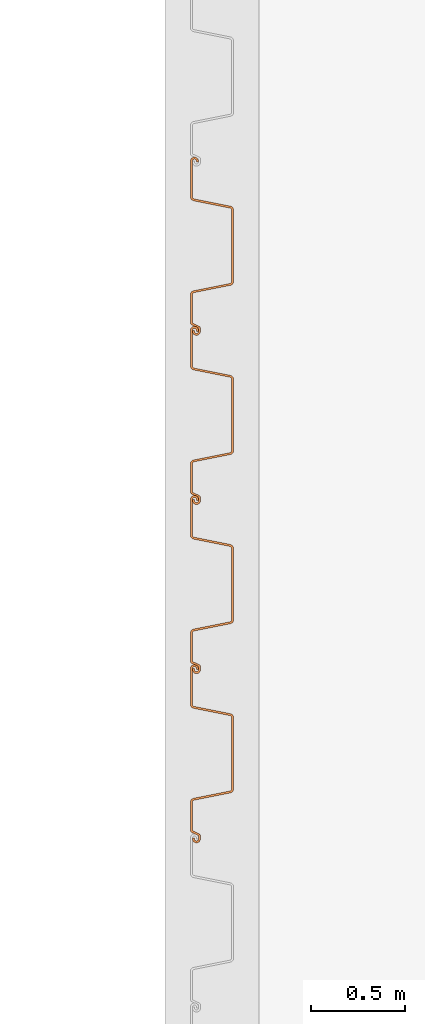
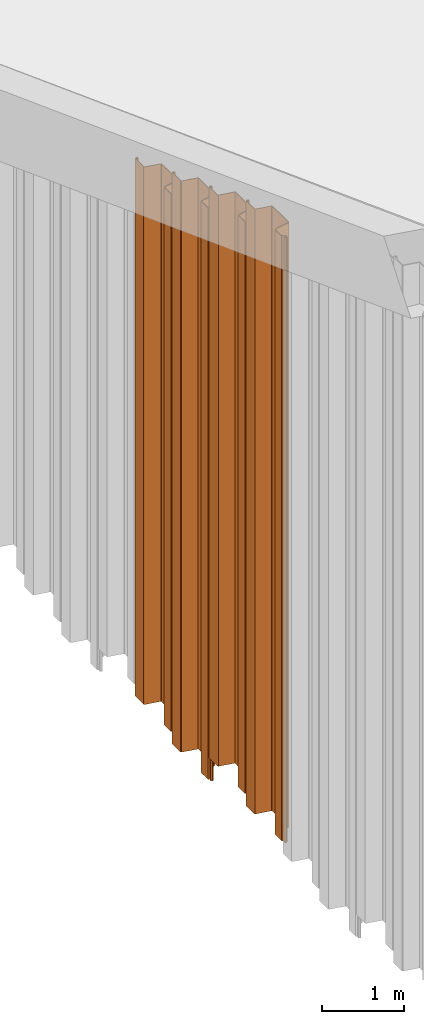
# One storey, part 11 of 15: 4 proxies.
"""IFC2X3 building model written with IfcOpenShell, lengths in millimetres."""

from ifc_helpers import new_model, entity, si_unit, converted_unit, derived_unit, direction, frame, frame_2d, origin, place, context, subcontext, project, spatial, polyline, circle_curve, parameter, trimmed, segment, composite_curve, outline, extrude, source, transform, mapped, material, type_object, type_shapes, element, save


model = new_model("IFC2X3")

# Units and contexts
model_context = context("Model", 3, precision=0.01, world=origin(), true_north=direction((6.12303176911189e-17, 1.0)))
body_context = subcontext(model_context, "Body", "Model", "MODEL_VIEW")
ifc_project = project(units=[si_unit("LENGTHUNIT", "METRE", prefix="MILLI"), si_unit("AREAUNIT", "SQUARE_METRE"), si_unit("VOLUMEUNIT", "CUBIC_METRE"), converted_unit("PLANEANGLEUNIT", "DEGREE", entity("IfcRatioMeasure", 0.0174532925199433), si_unit("PLANEANGLEUNIT", "RADIAN"), dimensions=[0, 0, 0, 0, 0, 0, 0]), si_unit("MASSUNIT", "GRAM", prefix="KILO"), derived_unit("MASSDENSITYUNIT", [(si_unit("MASSUNIT", "GRAM", prefix="KILO"), 1), (si_unit("LENGTHUNIT", "METRE"), -3)]), derived_unit("MOMENTOFINERTIAUNIT", [(si_unit("LENGTHUNIT", "METRE"), 4)]), si_unit("TIMEUNIT", "SECOND"), si_unit("FREQUENCYUNIT", "HERTZ"), si_unit("THERMODYNAMICTEMPERATUREUNIT", "DEGREE_CELSIUS"), derived_unit("THERMALTRANSMITTANCEUNIT", [(si_unit("MASSUNIT", "GRAM", prefix="KILO"), 1), (si_unit("THERMODYNAMICTEMPERATUREUNIT", "KELVIN"), -1), (si_unit("TIMEUNIT", "SECOND"), -3)]), derived_unit("VOLUMETRICFLOWRATEUNIT", [(si_unit("LENGTHUNIT", "METRE"), 3), (si_unit("TIMEUNIT", "SECOND"), -1)]), si_unit("ELECTRICCURRENTUNIT", "AMPERE"), si_unit("ELECTRICVOLTAGEUNIT", "VOLT"), si_unit("POWERUNIT", "WATT"), si_unit("FORCEUNIT", "NEWTON", prefix="KILO"), si_unit("ILLUMINANCEUNIT", "LUX"), si_unit("LUMINOUSFLUXUNIT", "LUMEN"), si_unit("LUMINOUSINTENSITYUNIT", "CANDELA"), derived_unit("USERDEFINED", [(si_unit("MASSUNIT", "GRAM", prefix="KILO"), -1), (si_unit("LENGTHUNIT", "METRE"), -2), (si_unit("TIMEUNIT", "SECOND"), 3), (si_unit("LUMINOUSFLUXUNIT", "LUMEN"), 1)]), derived_unit("LINEARVELOCITYUNIT", [(si_unit("LENGTHUNIT", "METRE"), 1), (si_unit("TIMEUNIT", "SECOND"), -1)]), si_unit("PRESSUREUNIT", "PASCAL"), derived_unit("USERDEFINED", [(si_unit("LENGTHUNIT", "METRE"), -2), (si_unit("MASSUNIT", "GRAM", prefix="KILO"), 1), (si_unit("TIMEUNIT", "SECOND"), -2)]), derived_unit("LINEARFORCEUNIT", [(si_unit("MASSUNIT", "GRAM", prefix="KILO"), 1), (si_unit("LENGTHUNIT", "METRE"), 1), (si_unit("TIMEUNIT", "SECOND"), -2), (si_unit("LENGTHUNIT", "METRE"), -1)]), derived_unit("PLANARFORCEUNIT", [(si_unit("MASSUNIT", "GRAM", prefix="KILO"), 1), (si_unit("LENGTHUNIT", "METRE"), 1), (si_unit("TIMEUNIT", "SECOND"), -2), (si_unit("LENGTHUNIT", "METRE"), -2)])], contexts=[model_context])

# Site, building, storey
site_placement = place(None, origin())
site = spatial("IfcSite", under=ifc_project, at=site_placement, Name="Default", CompositionType="ELEMENT")
building_placement = place(site_placement, origin())
building = spatial("IfcBuilding", under=site, at=building_placement, CompositionType="ELEMENT")
storey_placement = place(building_placement, frame((0.0, 0.0, 9500.0)))
storey = spatial("IfcBuildingStorey", under=building, at=storey_placement, Name="AP+9.500", CompositionType="ELEMENT", Elevation=9500.0)

# Proxies
ifc_material = material(Name="<Unnamed>")
building_element_proxy_type_1 = type_object("IfcBuildingElementProxyType", Name="鋼矢板10H型:鋼矢板10H型", PredefinedType="NOTDEFINED", material=ifc_material)
shared_shape_1 = source(origin(), body_context, "Body", "SweptSolid", [
    extrude(outline(composite_curve([segment(trimmed(circle_curve(frame_2d((85.3662976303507, 306.644432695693), x_axis=(0.422618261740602, 0.906307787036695)), 13.885714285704), [parameter(24.9999999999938)], [parameter(90.0000000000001)], True, "PARAMETER"), True, "CONTINUOUS"), segment(polyline([(72.7815666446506, 312.512789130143), (9.8129512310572, 177.476157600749)]), True, "CONTINUOUS"), segment(trimmed(circle_curve(frame_2d((29.3891994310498, 168.347603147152), x_axis=(0.422618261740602, 0.906307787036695)), 21.6), [parameter(90.0000000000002)], [parameter(168.69006752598)], True, "PARAMETER"), True, "CONTINUOUS"), segment(polyline([(16.598697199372, 150.941769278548), (175.329723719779, 34.2998683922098)]), True, "CONTINUOUS"), segment(trimmed(circle_curve(frame_2d((168.93447260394, 25.596951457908), x_axis=(0.422618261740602, 0.906307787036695)), 10.7999999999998), [parameter(270.0)], [parameter(348.690067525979)], True, "PARAMETER"), False, "CONTINUOUS"), segment(polyline([(178.722596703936, 21.0326742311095), (18.2974003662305, -323.000269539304)]), True, "CONTINUOUS"), segment(trimmed(circle_curve(frame_2d((8.50927626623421, -318.435992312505), x_axis=(0.422618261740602, 0.906307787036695)), 10.8), [parameter(191.30993247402)], [parameter(269.999999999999)], True, "PARAMETER"), False, "CONTINUOUS"), segment(polyline([(5.95324328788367, -328.929166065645), (-185.429973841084, -282.310113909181)]), True, "CONTINUOUS"), segment(trimmed(circle_curve(frame_2d((-190.542039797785, -303.296461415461), x_axis=(0.422618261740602, 0.906307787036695)), 21.6000000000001), [parameter(11.3099324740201)], [parameter(90.0000000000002)], True, "PARAMETER"), True, "CONTINUOUS"), segment(polyline([(-210.118287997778, -294.167906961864), (-290.330886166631, -466.184378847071)]), True, "CONTINUOUS"), segment(trimmed(circle_curve(frame_2d((-270.754637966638, -475.312933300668), x_axis=(0.422618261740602, 0.906307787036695)), 21.6), [parameter(90.0000000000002)], [parameter(269.999999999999)], True, "PARAMETER"), True, "CONTINUOUS"), segment(polyline([(-251.178389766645, -484.441487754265), (-249.065298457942, -479.909948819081)]), True, "CONTINUOUS"), segment(polyline([(-249.065298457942, -479.909948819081), (-258.853422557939, -475.345671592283)]), True, "CONTINUOUS"), segment(polyline([(-258.853422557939, -475.345671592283), (-260.966513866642, -479.877210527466)]), True, "CONTINUOUS"), segment(trimmed(circle_curve(frame_2d((-270.754637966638, -475.312933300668), x_axis=(0.422618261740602, 0.906307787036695)), 10.8), [parameter(90.0000000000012)], [parameter(270.0)], True, "PARAMETER"), False, "CONTINUOUS"), segment(polyline([(-280.542762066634, -470.748656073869), (-200.330163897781, -298.732184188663)]), True, "CONTINUOUS"), segment(trimmed(circle_curve(frame_2d((-190.542039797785, -303.296461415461), x_axis=(0.422618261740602, 0.906307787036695)), 10.8), [parameter(11.3099324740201)], [parameter(89.9999999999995)], True, "PARAMETER"), False, "CONTINUOUS"), segment(polyline([(-187.986006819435, -292.803287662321), (3.39721030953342, -339.422339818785)]), True, "CONTINUOUS"), segment(trimmed(circle_curve(frame_2d((8.50927626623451, -318.435992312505), x_axis=(0.422618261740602, 0.906307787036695)), 21.6), [parameter(191.30993247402)], [parameter(270.0)], True, "PARAMETER"), True, "CONTINUOUS"), segment(polyline([(28.0855244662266, -327.564546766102), (188.510720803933, 16.4683970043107)]), True, "CONTINUOUS"), segment(trimmed(circle_curve(frame_2d((168.93447260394, 25.5969514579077), x_axis=(0.422618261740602, 0.906307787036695)), 21.6), [parameter(270.0)], [parameter(348.69006752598)], True, "PARAMETER"), True, "CONTINUOUS"), segment(polyline([(181.724974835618, 43.0027853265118), (22.9939483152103, 159.644686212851)]), True, "CONTINUOUS"), segment(trimmed(circle_curve(frame_2d((29.3891994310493, 168.347603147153), x_axis=(0.422618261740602, 0.906307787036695)), 10.7999999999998), [parameter(89.9999999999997)], [parameter(168.690067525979)], True, "PARAMETER"), False, "CONTINUOUS"), segment(polyline([(19.6010753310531, 172.911880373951), (82.5696907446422, 307.948511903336)]), True, "CONTINUOUS"), segment(trimmed(circle_curve(frame_2d((85.3662976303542, 306.64443269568), x_axis=(0.422618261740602, 0.906307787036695)), 3.08571428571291), [parameter(25.0000000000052)], [parameter(90.0000000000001)], True, "PARAMETER"), False, "CONTINUOUS"), segment(polyline([(85.3662976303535, 309.730146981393), (122.220231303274, 309.730146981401)]), True, "CONTINUOUS"), segment(trimmed(circle_curve(frame_2d((122.220231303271, 323.615861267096), x_axis=(0.422618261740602, 0.906307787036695)), 13.8857142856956), [parameter(205.000000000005)], [parameter(270.0)], True, "PARAMETER"), True, "CONTINUOUS"), segment(polyline([(134.804962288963, 317.747504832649), (141.079261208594, 331.202782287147)]), True, "CONTINUOUS"), segment(trimmed(circle_curve(frame_2d((121.503013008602, 340.331336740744), x_axis=(0.422618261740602, 0.906307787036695)), 21.6), [parameter(270.0)], [parameter(90.0000000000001)], True, "PARAMETER"), True, "CONTINUOUS"), segment(polyline([(101.926764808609, 349.459891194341), (99.8136734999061, 344.928352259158)]), True, "CONTINUOUS"), segment(polyline([(99.8136734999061, 344.928352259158), (109.601797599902, 340.364075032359)]), True, "CONTINUOUS"), segment(polyline([(109.601797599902, 340.364075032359), (111.714888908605, 344.895613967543)]), True, "CONTINUOUS"), segment(trimmed(circle_curve(frame_2d((121.503013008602, 340.331336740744), x_axis=(0.422618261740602, 0.906307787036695)), 10.8), [parameter(270.0)], [parameter(89.9999999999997)], True, "PARAMETER"), False, "CONTINUOUS"), segment(polyline([(131.291137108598, 335.767059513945), (125.01683818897, 322.311782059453)]), True, "CONTINUOUS"), segment(trimmed(circle_curve(frame_2d((122.220231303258, 323.615861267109), x_axis=(0.422618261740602, 0.906307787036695)), 3.08571428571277), [parameter(204.999999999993)], [parameter(270.0)], True, "PARAMETER"), False, "CONTINUOUS"), segment(polyline([(122.220231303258, 320.530146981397), (85.3662976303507, 320.530146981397)]), True, "CONTINUOUS")], self_intersect=False)), frame((95.205667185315, -48.8888888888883, -8000.0), z_axis=(0.0, 0.0, -1.0), x_axis=(0.4226182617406, 0.906307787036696, 0.0)), (0.0, 0.0, -1.0), 8000.0),
])
type_shapes(building_element_proxy_type_1, [shared_shape_1])
proxy_1_placement = place(storey_placement, frame((89754.0, 14005.0, 4170.89397191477), z_axis=(0.0, 0.0, 1.0), x_axis=(0.0, -1.0, 0.0)))
element("IfcBuildingElementProxy", 1, at=proxy_1_placement, inside=storey, type_object=building_element_proxy_type_1, material=ifc_material, Name="鋼矢板10H型:鋼矢板10H型", ObjectType="鋼矢板10H型:鋼矢板10H型", context=body_context, shape_type="MappedRepresentation", body=[
    mapped(shared_shape_1, transform((0.0, 0.0, 0.0), scale=1.0)),
])
building_element_proxy_type_2 = type_object("IfcBuildingElementProxyType", Name="鋼矢板10H型:鋼矢板10H型", PredefinedType="NOTDEFINED", material=ifc_material)
shared_shape_2 = source(origin(), body_context, "Body", "SweptSolid", [
    extrude(outline(composite_curve([segment(trimmed(circle_curve(frame_2d((85.3662976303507, 306.644432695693), x_axis=(0.422618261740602, 0.906307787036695)), 13.885714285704), [parameter(24.9999999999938)], [parameter(90.0000000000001)], True, "PARAMETER"), True, "CONTINUOUS"), segment(polyline([(72.7815666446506, 312.512789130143), (9.8129512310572, 177.476157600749)]), True, "CONTINUOUS"), segment(trimmed(circle_curve(frame_2d((29.3891994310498, 168.347603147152), x_axis=(0.422618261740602, 0.906307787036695)), 21.6), [parameter(90.0000000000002)], [parameter(168.69006752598)], True, "PARAMETER"), True, "CONTINUOUS"), segment(polyline([(16.598697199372, 150.941769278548), (175.329723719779, 34.2998683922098)]), True, "CONTINUOUS"), segment(trimmed(circle_curve(frame_2d((168.93447260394, 25.596951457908), x_axis=(0.422618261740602, 0.906307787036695)), 10.7999999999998), [parameter(270.0)], [parameter(348.690067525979)], True, "PARAMETER"), False, "CONTINUOUS"), segment(polyline([(178.722596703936, 21.0326742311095), (18.2974003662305, -323.000269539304)]), True, "CONTINUOUS"), segment(trimmed(circle_curve(frame_2d((8.50927626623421, -318.435992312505), x_axis=(0.422618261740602, 0.906307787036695)), 10.8), [parameter(191.30993247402)], [parameter(269.999999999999)], True, "PARAMETER"), False, "CONTINUOUS"), segment(polyline([(5.95324328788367, -328.929166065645), (-185.429973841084, -282.310113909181)]), True, "CONTINUOUS"), segment(trimmed(circle_curve(frame_2d((-190.542039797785, -303.296461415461), x_axis=(0.422618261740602, 0.906307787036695)), 21.6000000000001), [parameter(11.3099324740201)], [parameter(90.0000000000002)], True, "PARAMETER"), True, "CONTINUOUS"), segment(polyline([(-210.118287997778, -294.167906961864), (-290.330886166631, -466.184378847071)]), True, "CONTINUOUS"), segment(trimmed(circle_curve(frame_2d((-270.754637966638, -475.312933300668), x_axis=(0.422618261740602, 0.906307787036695)), 21.6), [parameter(90.0000000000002)], [parameter(269.999999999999)], True, "PARAMETER"), True, "CONTINUOUS"), segment(polyline([(-251.178389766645, -484.441487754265), (-249.065298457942, -479.909948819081)]), True, "CONTINUOUS"), segment(polyline([(-249.065298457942, -479.909948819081), (-258.853422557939, -475.345671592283)]), True, "CONTINUOUS"), segment(polyline([(-258.853422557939, -475.345671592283), (-260.966513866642, -479.877210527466)]), True, "CONTINUOUS"), segment(trimmed(circle_curve(frame_2d((-270.754637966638, -475.312933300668), x_axis=(0.422618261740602, 0.906307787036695)), 10.8), [parameter(90.0000000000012)], [parameter(270.0)], True, "PARAMETER"), False, "CONTINUOUS"), segment(polyline([(-280.542762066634, -470.748656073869), (-200.330163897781, -298.732184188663)]), True, "CONTINUOUS"), segment(trimmed(circle_curve(frame_2d((-190.542039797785, -303.296461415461), x_axis=(0.422618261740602, 0.906307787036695)), 10.8), [parameter(11.3099324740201)], [parameter(89.9999999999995)], True, "PARAMETER"), False, "CONTINUOUS"), segment(polyline([(-187.986006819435, -292.803287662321), (3.39721030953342, -339.422339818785)]), True, "CONTINUOUS"), segment(trimmed(circle_curve(frame_2d((8.50927626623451, -318.435992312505), x_axis=(0.422618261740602, 0.906307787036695)), 21.6), [parameter(191.30993247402)], [parameter(270.0)], True, "PARAMETER"), True, "CONTINUOUS"), segment(polyline([(28.0855244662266, -327.564546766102), (188.510720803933, 16.4683970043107)]), True, "CONTINUOUS"), segment(trimmed(circle_curve(frame_2d((168.93447260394, 25.5969514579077), x_axis=(0.422618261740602, 0.906307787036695)), 21.6), [parameter(270.0)], [parameter(348.69006752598)], True, "PARAMETER"), True, "CONTINUOUS"), segment(polyline([(181.724974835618, 43.0027853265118), (22.9939483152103, 159.644686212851)]), True, "CONTINUOUS"), segment(trimmed(circle_curve(frame_2d((29.3891994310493, 168.347603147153), x_axis=(0.422618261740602, 0.906307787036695)), 10.7999999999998), [parameter(89.9999999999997)], [parameter(168.690067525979)], True, "PARAMETER"), False, "CONTINUOUS"), segment(polyline([(19.6010753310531, 172.911880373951), (82.5696907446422, 307.948511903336)]), True, "CONTINUOUS"), segment(trimmed(circle_curve(frame_2d((85.3662976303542, 306.64443269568), x_axis=(0.422618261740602, 0.906307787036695)), 3.08571428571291), [parameter(25.0000000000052)], [parameter(90.0000000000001)], True, "PARAMETER"), False, "CONTINUOUS"), segment(polyline([(85.3662976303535, 309.730146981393), (122.220231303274, 309.730146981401)]), True, "CONTINUOUS"), segment(trimmed(circle_curve(frame_2d((122.220231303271, 323.615861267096), x_axis=(0.422618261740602, 0.906307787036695)), 13.8857142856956), [parameter(205.000000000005)], [parameter(270.0)], True, "PARAMETER"), True, "CONTINUOUS"), segment(polyline([(134.804962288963, 317.747504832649), (141.079261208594, 331.202782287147)]), True, "CONTINUOUS"), segment(trimmed(circle_curve(frame_2d((121.503013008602, 340.331336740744), x_axis=(0.422618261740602, 0.906307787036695)), 21.6), [parameter(270.0)], [parameter(90.0000000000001)], True, "PARAMETER"), True, "CONTINUOUS"), segment(polyline([(101.926764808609, 349.459891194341), (99.8136734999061, 344.928352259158)]), True, "CONTINUOUS"), segment(polyline([(99.8136734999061, 344.928352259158), (109.601797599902, 340.364075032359)]), True, "CONTINUOUS"), segment(polyline([(109.601797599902, 340.364075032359), (111.714888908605, 344.895613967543)]), True, "CONTINUOUS"), segment(trimmed(circle_curve(frame_2d((121.503013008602, 340.331336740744), x_axis=(0.422618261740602, 0.906307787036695)), 10.8), [parameter(270.0)], [parameter(89.9999999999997)], True, "PARAMETER"), False, "CONTINUOUS"), segment(polyline([(131.291137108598, 335.767059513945), (125.01683818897, 322.311782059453)]), True, "CONTINUOUS"), segment(trimmed(circle_curve(frame_2d((122.220231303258, 323.615861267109), x_axis=(0.422618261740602, 0.906307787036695)), 3.08571428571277), [parameter(204.999999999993)], [parameter(270.0)], True, "PARAMETER"), False, "CONTINUOUS"), segment(polyline([(122.220231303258, 320.530146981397), (85.3662976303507, 320.530146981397)]), True, "CONTINUOUS")], self_intersect=False)), frame((95.205667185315, -48.8888888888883, -8500.0), z_axis=(0.0, 0.0, -1.0), x_axis=(0.4226182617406, 0.906307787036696, 0.0)), (0.0, 0.0, -1.0), 8500.0),
])
type_shapes(building_element_proxy_type_2, [shared_shape_2])
for number, where, z_axis, x_axis in (
    (2, (89754.0, 13105.0, 4507.0379964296), (0.0, 0.0, 1.0), (0.0, -1.0, 0.0)),
    (3, (89754.0, 12205.0, 4843.18202094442), (0.0, 0.0, 1.0), (0.0, -1.0, 0.0)),
):
    element("IfcBuildingElementProxy", number, at=place(storey_placement, frame(where, z_axis=z_axis, x_axis=x_axis)), inside=storey, type_object=building_element_proxy_type_2, material=ifc_material, Name="鋼矢板10H型:鋼矢板10H型", ObjectType="鋼矢板10H型:鋼矢板10H型", context=body_context, shape_type="MappedRepresentation", body=[
        mapped(shared_shape_2, transform((0.0, 0.0, 0.0), scale=1.0)),
    ])
building_element_proxy_type_3 = type_object("IfcBuildingElementProxyType", Name="鋼矢板10H型:鋼矢板10H型", PredefinedType="NOTDEFINED", material=ifc_material)
shared_shape_3 = source(origin(), body_context, "Body", "SweptSolid", [
    extrude(outline(composite_curve([segment(trimmed(circle_curve(frame_2d((85.3662976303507, 306.644432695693), x_axis=(0.422618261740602, 0.906307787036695)), 13.885714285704), [parameter(24.9999999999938)], [parameter(90.0000000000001)], True, "PARAMETER"), True, "CONTINUOUS"), segment(polyline([(72.7815666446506, 312.512789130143), (9.8129512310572, 177.476157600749)]), True, "CONTINUOUS"), segment(trimmed(circle_curve(frame_2d((29.3891994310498, 168.347603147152), x_axis=(0.422618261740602, 0.906307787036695)), 21.6), [parameter(90.0000000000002)], [parameter(168.69006752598)], True, "PARAMETER"), True, "CONTINUOUS"), segment(polyline([(16.598697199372, 150.941769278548), (175.329723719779, 34.2998683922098)]), True, "CONTINUOUS"), segment(trimmed(circle_curve(frame_2d((168.93447260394, 25.596951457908), x_axis=(0.422618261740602, 0.906307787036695)), 10.7999999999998), [parameter(270.0)], [parameter(348.690067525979)], True, "PARAMETER"), False, "CONTINUOUS"), segment(polyline([(178.722596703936, 21.0326742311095), (18.2974003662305, -323.000269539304)]), True, "CONTINUOUS"), segment(trimmed(circle_curve(frame_2d((8.50927626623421, -318.435992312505), x_axis=(0.422618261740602, 0.906307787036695)), 10.8), [parameter(191.30993247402)], [parameter(269.999999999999)], True, "PARAMETER"), False, "CONTINUOUS"), segment(polyline([(5.95324328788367, -328.929166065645), (-185.429973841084, -282.310113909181)]), True, "CONTINUOUS"), segment(trimmed(circle_curve(frame_2d((-190.542039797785, -303.296461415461), x_axis=(0.422618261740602, 0.906307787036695)), 21.6000000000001), [parameter(11.3099324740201)], [parameter(90.0000000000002)], True, "PARAMETER"), True, "CONTINUOUS"), segment(polyline([(-210.118287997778, -294.167906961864), (-290.330886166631, -466.184378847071)]), True, "CONTINUOUS"), segment(trimmed(circle_curve(frame_2d((-270.754637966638, -475.312933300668), x_axis=(0.422618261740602, 0.906307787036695)), 21.6), [parameter(90.0000000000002)], [parameter(269.999999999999)], True, "PARAMETER"), True, "CONTINUOUS"), segment(polyline([(-251.178389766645, -484.441487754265), (-249.065298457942, -479.909948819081)]), True, "CONTINUOUS"), segment(polyline([(-249.065298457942, -479.909948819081), (-258.853422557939, -475.345671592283)]), True, "CONTINUOUS"), segment(polyline([(-258.853422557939, -475.345671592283), (-260.966513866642, -479.877210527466)]), True, "CONTINUOUS"), segment(trimmed(circle_curve(frame_2d((-270.754637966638, -475.312933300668), x_axis=(0.422618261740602, 0.906307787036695)), 10.8), [parameter(90.0000000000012)], [parameter(270.0)], True, "PARAMETER"), False, "CONTINUOUS"), segment(polyline([(-280.542762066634, -470.748656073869), (-200.330163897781, -298.732184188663)]), True, "CONTINUOUS"), segment(trimmed(circle_curve(frame_2d((-190.542039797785, -303.296461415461), x_axis=(0.422618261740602, 0.906307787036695)), 10.8), [parameter(11.3099324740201)], [parameter(89.9999999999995)], True, "PARAMETER"), False, "CONTINUOUS"), segment(polyline([(-187.986006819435, -292.803287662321), (3.39721030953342, -339.422339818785)]), True, "CONTINUOUS"), segment(trimmed(circle_curve(frame_2d((8.50927626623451, -318.435992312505), x_axis=(0.422618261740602, 0.906307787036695)), 21.6), [parameter(191.30993247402)], [parameter(270.0)], True, "PARAMETER"), True, "CONTINUOUS"), segment(polyline([(28.0855244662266, -327.564546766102), (188.510720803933, 16.4683970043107)]), True, "CONTINUOUS"), segment(trimmed(circle_curve(frame_2d((168.93447260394, 25.5969514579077), x_axis=(0.422618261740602, 0.906307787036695)), 21.6), [parameter(270.0)], [parameter(348.69006752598)], True, "PARAMETER"), True, "CONTINUOUS"), segment(polyline([(181.724974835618, 43.0027853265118), (22.9939483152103, 159.644686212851)]), True, "CONTINUOUS"), segment(trimmed(circle_curve(frame_2d((29.3891994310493, 168.347603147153), x_axis=(0.422618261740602, 0.906307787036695)), 10.7999999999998), [parameter(89.9999999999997)], [parameter(168.690067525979)], True, "PARAMETER"), False, "CONTINUOUS"), segment(polyline([(19.6010753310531, 172.911880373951), (82.5696907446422, 307.948511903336)]), True, "CONTINUOUS"), segment(trimmed(circle_curve(frame_2d((85.3662976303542, 306.64443269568), x_axis=(0.422618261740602, 0.906307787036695)), 3.08571428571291), [parameter(25.0000000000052)], [parameter(90.0000000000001)], True, "PARAMETER"), False, "CONTINUOUS"), segment(polyline([(85.3662976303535, 309.730146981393), (122.220231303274, 309.730146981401)]), True, "CONTINUOUS"), segment(trimmed(circle_curve(frame_2d((122.220231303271, 323.615861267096), x_axis=(0.422618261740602, 0.906307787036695)), 13.8857142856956), [parameter(205.000000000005)], [parameter(270.0)], True, "PARAMETER"), True, "CONTINUOUS"), segment(polyline([(134.804962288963, 317.747504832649), (141.079261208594, 331.202782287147)]), True, "CONTINUOUS"), segment(trimmed(circle_curve(frame_2d((121.503013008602, 340.331336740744), x_axis=(0.422618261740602, 0.906307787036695)), 21.6), [parameter(270.0)], [parameter(90.0000000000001)], True, "PARAMETER"), True, "CONTINUOUS"), segment(polyline([(101.926764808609, 349.459891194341), (99.8136734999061, 344.928352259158)]), True, "CONTINUOUS"), segment(polyline([(99.8136734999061, 344.928352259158), (109.601797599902, 340.364075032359)]), True, "CONTINUOUS"), segment(polyline([(109.601797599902, 340.364075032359), (111.714888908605, 344.895613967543)]), True, "CONTINUOUS"), segment(trimmed(circle_curve(frame_2d((121.503013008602, 340.331336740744), x_axis=(0.422618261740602, 0.906307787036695)), 10.8), [parameter(270.0)], [parameter(89.9999999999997)], True, "PARAMETER"), False, "CONTINUOUS"), segment(polyline([(131.291137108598, 335.767059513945), (125.01683818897, 322.311782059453)]), True, "CONTINUOUS"), segment(trimmed(circle_curve(frame_2d((122.220231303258, 323.615861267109), x_axis=(0.422618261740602, 0.906307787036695)), 3.08571428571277), [parameter(204.999999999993)], [parameter(270.0)], True, "PARAMETER"), False, "CONTINUOUS"), segment(polyline([(122.220231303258, 320.530146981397), (85.3662976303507, 320.530146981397)]), True, "CONTINUOUS")], self_intersect=False)), frame((95.205667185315, -48.8888888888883, -9000.0), z_axis=(0.0, 0.0, -1.0), x_axis=(0.4226182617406, 0.906307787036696, 0.0)), (0.0, 0.0, -1.0), 9000.0),
])
type_shapes(building_element_proxy_type_3, [shared_shape_3])
proxy_2_placement = place(storey_placement, frame((89754.0, 11305.0, 5179.32604545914), z_axis=(0.0, 0.0, 1.0), x_axis=(0.0, -1.0, 0.0)))
element("IfcBuildingElementProxy", 4, at=proxy_2_placement, inside=storey, type_object=building_element_proxy_type_3, material=ifc_material, Name="鋼矢板10H型:鋼矢板10H型", ObjectType="鋼矢板10H型:鋼矢板10H型", context=body_context, shape_type="MappedRepresentation", body=[
    mapped(shared_shape_3, transform((0.0, 0.0, 0.0), scale=1.0)),
])

save(model, "model.ifc")
